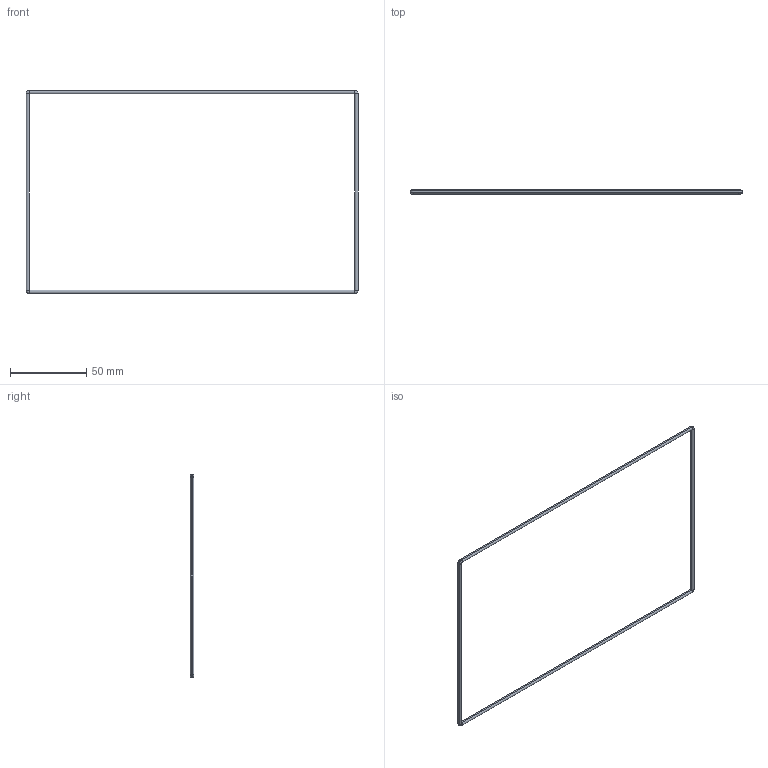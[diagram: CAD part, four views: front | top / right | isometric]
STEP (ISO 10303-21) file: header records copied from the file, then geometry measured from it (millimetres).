
FILE_DESCRIPTION (( 'STEP AP214' ), '1' );
FILE_NAME ('Junta torica PP70.STEP', '2017-11-14T10:14:22', ( 'aaa' ), ( '' ), 'SwSTEP 2.0', 'SolidWorks 2013', '' );
FILE_SCHEMA (( 'AUTOMOTIVE_DESIGN' ));
Length unit declared in the file: millimetre
Products named in the file (1): Junta torica PP70
Bounding box: 217.1 x 2.49 x 132.7 mm (x, y, z)
Volume: 3216 mm3; surface area: 5341.9 mm2
Topology: 1 solids, 1 shells, 28 faces, 60 edges, 24 vertices
Faces by surface type: cylinder 12, torus 8, plane 8
Entity records: 1010 total; most frequent: DIRECTION 134, CARTESIAN_POINT 105, ORIENTED_EDGE 104, AXIS2_PLACEMENT_3D 53, EDGE_CURVE 52, UNCERTAINTY_MEASURE_WITH_UNIT 31, SURFACE_STYLE_USAGE 30, SURFACE_SIDE_STYLE 30
